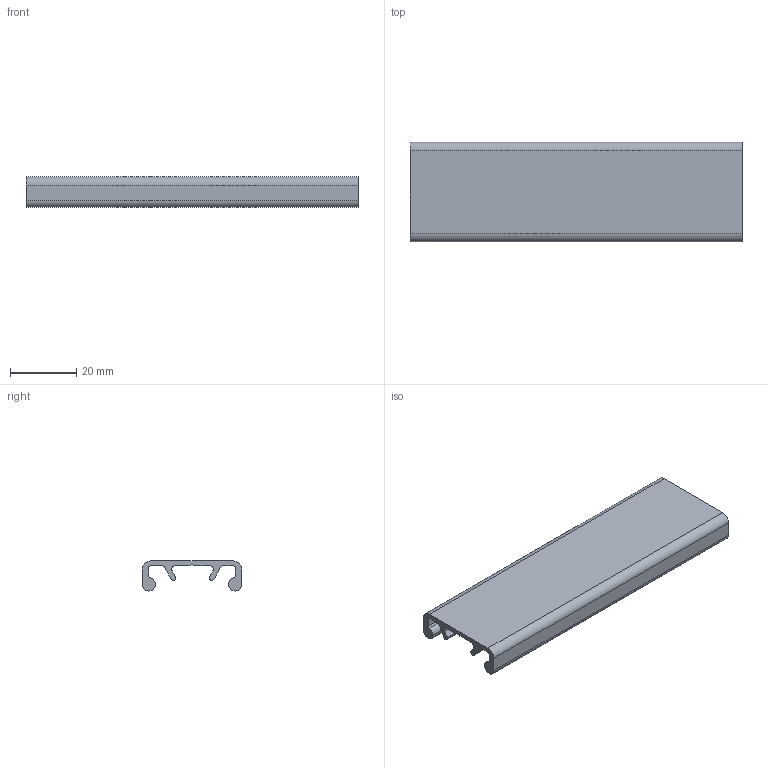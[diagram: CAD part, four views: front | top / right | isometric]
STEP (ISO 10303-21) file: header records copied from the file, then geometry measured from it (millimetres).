
FILE_DESCRIPTION (( 'STEP AP214' ), '1' );
FILE_NAME ('084.101.093.STEP', '2022-03-03T12:39:05', ( '' ), ( '' ), 'SwSTEP 2.0', 'SolidWorks 2018', '' );
FILE_SCHEMA (( 'AUTOMOTIVE_DESIGN' ));
Length unit declared in the file: millimetre
Products named in the file (1): 084.101.093
Bounding box: 100 x 30 x 9.08 mm (x, y, z)
Volume: 9916.9 mm3; surface area: 11071.3 mm2
Topology: 1 solids, 1 shells, 37 faces, 105 edges, 70 vertices
Faces by surface type: cylinder 20, plane 17
Entity records: 1253 total; most frequent: DIRECTION 221, CARTESIAN_POINT 213, ORIENTED_EDGE 210, EDGE_CURVE 105, AXIS2_PLACEMENT_3D 78, VERTEX_POINT 70, VECTOR 65, LINE 65
